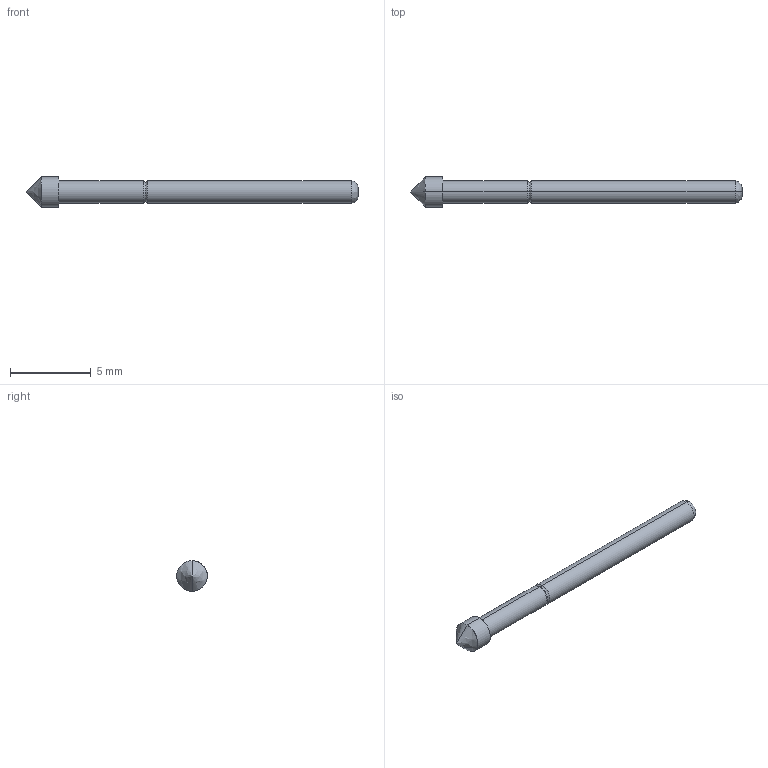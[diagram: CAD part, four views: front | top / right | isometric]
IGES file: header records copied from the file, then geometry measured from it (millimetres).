
Start section: SolidWorks IGES file using analytic representation for surfaces
Global section: file name: Z:\probe solid model mockups\Solidworks models\IGES Files\EPA-2\EPA-2E Full.IGS; native system: SolidWorks 2006 by SolidWorks Corporation; preprocessor: SolidWorks 2006 by SolidWorks Corporation; author: tsakatani; date: 071220.161737; units: inch
Bounding box: 20.57 x 1.91 x 1.91 mm (x, y, z)
Surface area: 92.5 mm2 (no closed solid volume)
Topology: 0 solids, 0 shells, 16 faces, 120 edges, 118 vertices
Faces by surface type: bspline 8, revolution 8
